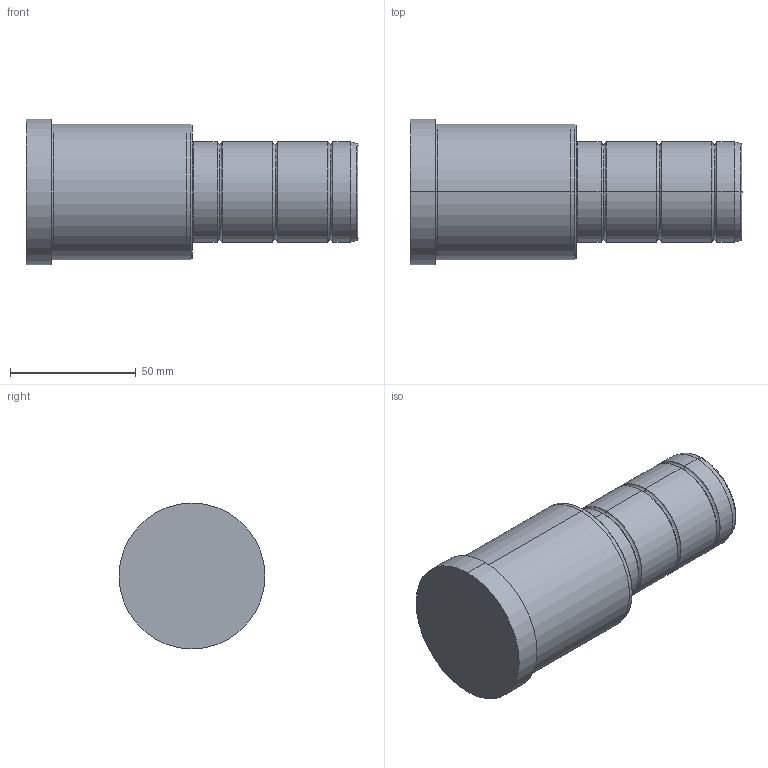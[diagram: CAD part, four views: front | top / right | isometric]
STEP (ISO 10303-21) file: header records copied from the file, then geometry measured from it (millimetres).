
FILE_DESCRIPTION( ( 'STEP AP203' ), '1' );
FILE_NAME( 'C:/Projects/D02 - 40x66x66.step', '2003-01-04T14:16:04', ( ' ' ), ( ' ' ), 'XStep 1.0', ' ', ' ' );
FILE_SCHEMA( ( 'CONFIG_CONTROL_DESIGN' ) );
Length unit declared in the file: metre
Products named in the file (1): 1
Bounding box: 132 x 58 x 58 mm (x, y, z)
Volume: 236944.2 mm3; surface area: 25101.8 mm2
Topology: 1 solids, 1 shells, 42 faces, 82 edges, 46 vertices
Faces by surface type: bspline 22, revolution 20
Entity records: 1325 total; most frequent: CARTESIAN_POINT 517, ORIENTED_EDGE 164, DIRECTION 134, EDGE_CURVE 82, AXIS2_PLACEMENT_3D 47, EDGE_LOOP 46, VERTEX_POINT 46, CIRCLE 46
